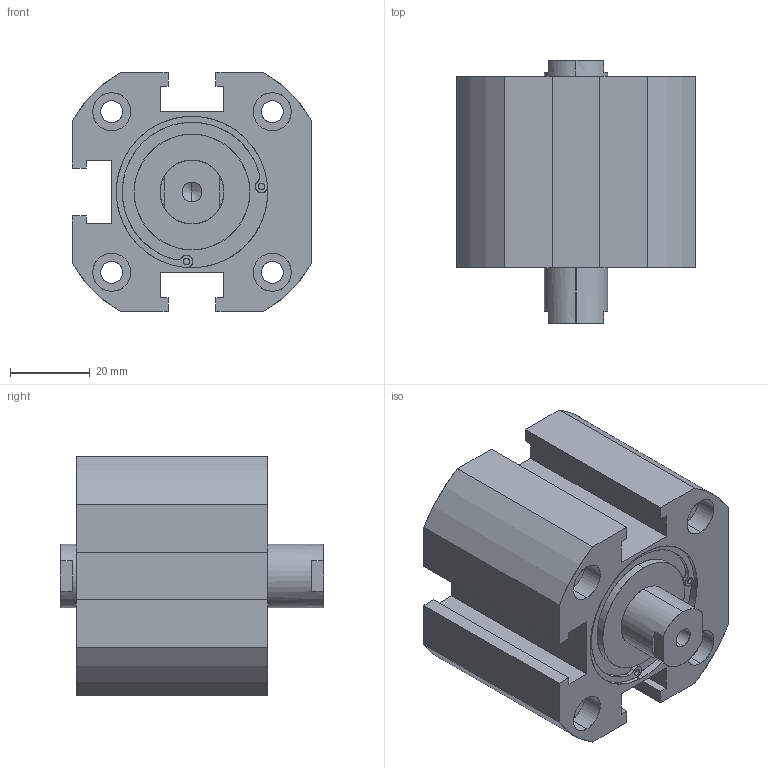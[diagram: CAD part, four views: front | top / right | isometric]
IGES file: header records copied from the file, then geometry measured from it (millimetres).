
Start section: SolidWorks IGES file using analytic representation for surfaces
Global section: file name: C:\Users\Toshiba\Desktop\XG#7-40D-10.IGS; native system: SolidWorks 2014; preprocessor: SolidWorks 2014; author: Toshiba; date: 160524.095915; units: millimetre
Bounding box: 60 x 66 x 60 mm (x, y, z)
Surface area: 26525.2 mm2 (no closed solid volume)
Topology: 0 solids, 0 shells, 149 faces, 2692 edges, 2684 vertices
Faces by surface type: revolution 89, bspline 60
